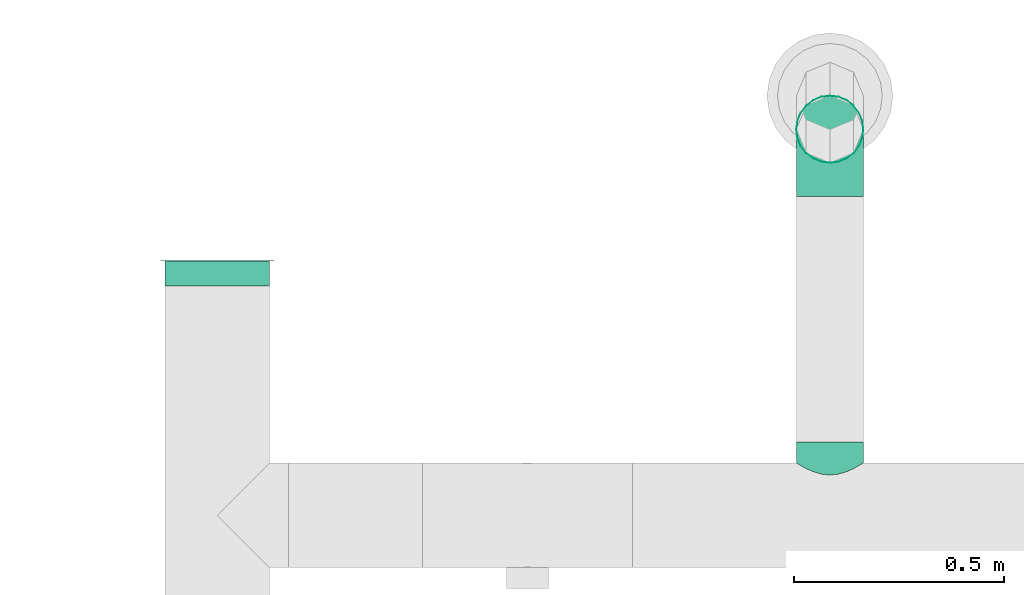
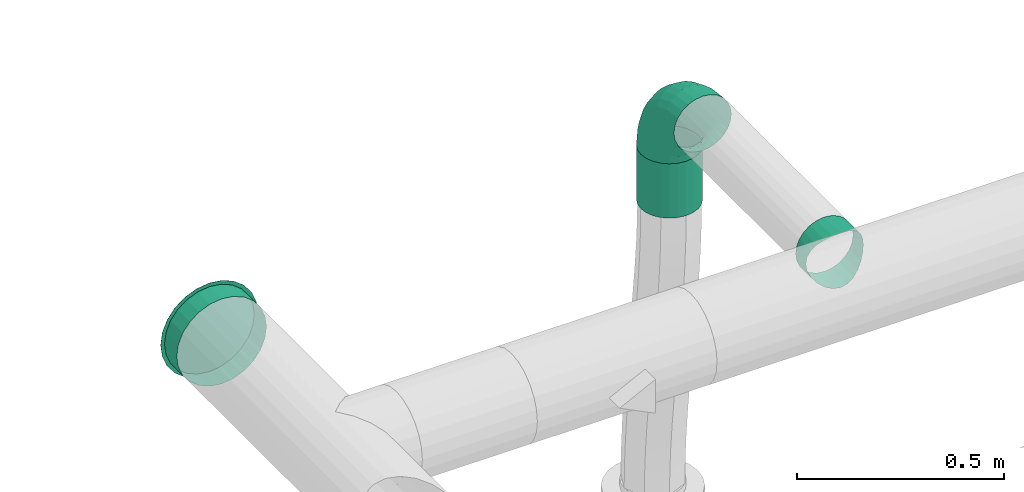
# One storey, part 178 of 374: 2 flow fittings, 2 flow segments.
"""IFC2X3 building model written with IfcOpenShell, lengths in metres."""

from ifc_helpers import new_model, si_unit, direction, origin, place, context, subcontext, project, spatial, open_shell, surface_model, source, transform, mapped, element, save


model = new_model("IFC2X3")

# Units and contexts
model_context = context("Model", 3, precision=1e-05, world=origin(), true_north=direction((-0.4480736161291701, 0.8939966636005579)))
body_context = subcontext(model_context, "Body", "Model", "MODEL_VIEW")
ifc_project = project(units=[si_unit("LENGTHUNIT", "METRE"), si_unit("AREAUNIT", "SQUARE_METRE"), si_unit("VOLUMEUNIT", "CUBIC_METRE"), si_unit("PLANEANGLEUNIT", "RADIAN"), si_unit("THERMODYNAMICTEMPERATUREUNIT", "KELVIN"), si_unit("MASSUNIT", "GRAM", prefix="KILO"), si_unit("TIMEUNIT", "SECOND")], contexts=[model_context])

# Site, building, storey
site_placement = place(None, origin())
site = spatial("IfcSite", under=ifc_project, at=site_placement, Name="Site 1", CompositionType="ELEMENT")
building_placement = place(site_placement, origin())
building = spatial("IfcBuilding", under=site, at=building_placement, Name="Undefined", CompositionType="ELEMENT")
storey_placement = place(building_placement, origin())
storey = spatial("IfcBuildingStorey", under=building, at=storey_placement, Name="Rez de chauss\x8ee", CompositionType="ELEMENT", Elevation=0.0)

# Flow fitting
shared_shape_1 = source(origin(), body_context, "Body", "SurfaceModel", [
    surface_model("IfcFaceBasedSurfaceModel", [(0.06265257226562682, -8.8817842e-16, 0.0), (0.062296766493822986, 0.02088115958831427, -7.105427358e-15), (0.0003558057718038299, 0.020881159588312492, 7.105427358e-15), (0.0, 0.0, 0.0), (-0.059474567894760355, 0.022956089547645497, -0.015896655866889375), (-0.06051773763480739, 0.002098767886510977, -0.01607928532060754), (-0.11311701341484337, 0.02696454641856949, -0.04660663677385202), (-0.11477645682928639, 0.006153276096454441, -0.04714207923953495), (-0.15691588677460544, 0.0326333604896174, -0.09003710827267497), (-0.15907851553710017, 0.01188721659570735, -0.09107150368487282), (-0.18788636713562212, 0.03957621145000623, -0.14322835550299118), (-0.1904048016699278, 0.01890983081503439, -0.14487384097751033), (-0.2039178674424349, 0.04731995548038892, -0.20255548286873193), (-0.20662048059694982, 0.026742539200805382, -0.20488255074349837), (0.061253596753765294, 0.04103889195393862, -0.0053597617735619), (0.0013989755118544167, 0.04103889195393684, -0.005359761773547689), (-0.05641614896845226, 0.04304393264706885, -0.02072097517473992), (-0.10825177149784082, 0.04691737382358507, -0.050396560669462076), (-0.15057538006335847, 0.05239524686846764, -0.09236417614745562), (-0.18050269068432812, 0.05910424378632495, -0.14376379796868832), (-0.19599420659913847, 0.06658715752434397, -0.20109262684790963), (0.05959415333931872, 0.05909948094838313, -0.01571402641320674), (0.003058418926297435, 0.05909948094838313, -0.01571402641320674), (-0.05155090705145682, 0.06099334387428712, -0.030223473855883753), (-0.10051228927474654, 0.06465200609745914, -0.058253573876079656), (-0.1404890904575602, 0.0698261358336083, -0.09789412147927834), (-0.16875695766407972, 0.0761631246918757, -0.14644367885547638), (-0.18338948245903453, 0.08323111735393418, -0.2005936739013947), (0.057431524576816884, 0.07383212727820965, -0.030357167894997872), (0.005221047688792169, 0.07383212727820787, -0.03035716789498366), (-0.0452104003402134, 0.07558110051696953, -0.04375657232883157), (-0.09042599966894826, 0.07895985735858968, -0.06964223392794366), (-0.12734438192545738, 0.08373814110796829, -0.10625008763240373), (-0.15344962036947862, 0.08959031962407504, -0.15108536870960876), (-0.16696268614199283, 0.0961175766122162, -0.20109262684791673), (0.054913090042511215, 0.0842328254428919, -0.048291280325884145), (0.007739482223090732, 0.08423282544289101, -0.04829128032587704), (-0.037826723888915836, 0.08581307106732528, -0.06039801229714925), (-0.07868026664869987, 0.08886587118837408, -0.08378642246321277), (-0.11203704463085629, 0.09318318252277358, -0.11686262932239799), (-0.13562384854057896, 0.09847078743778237, -0.1573725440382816), (-0.14783327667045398, 0.10436834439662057, -0.20255548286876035), (0.05221047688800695, 0.0895927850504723, -0.06829418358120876), (0.010442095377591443, 0.08959278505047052, -0.06829418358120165), (-0.029903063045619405, 0.09099196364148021, -0.07901370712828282), (-0.06607554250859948, 0.09369496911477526, -0.0997222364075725), (-0.0956102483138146, 0.0975175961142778, -0.12900851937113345), (-0.11649443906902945, 0.10219933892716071, -0.16487674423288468), (-0.12730489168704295, 0.1074211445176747, -0.2048825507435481), (0.04950786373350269, 0.08954673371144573, -0.08900271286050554), (0.013144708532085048, 0.08954673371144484, -0.08900271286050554), (-0.02197940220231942, 0.09076484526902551, -0.09833502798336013), (-0.05347081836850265, 0.09311805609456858, -0.11636367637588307), (-0.0791834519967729, 0.09644599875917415, -0.14186003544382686), (-0.09736502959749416, 0.10052187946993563, -0.17308657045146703), (-0.10677650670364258, 0.1050679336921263, -0.20791524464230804), (0.04698942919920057, 0.08409780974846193, -0.10900561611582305), (0.015663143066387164, 0.08409780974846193, -0.10900561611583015), (-0.014595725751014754, 0.08514719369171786, -0.11704525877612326), (-0.0417250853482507, 0.0871744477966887, -0.13257665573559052), (-0.06387611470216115, 0.09004141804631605, -0.15454136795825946), (-0.07953925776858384, 0.09355272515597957, -0.1814425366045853), (-0.08764709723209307, 0.09746907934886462, -0.21144689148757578), (0.04482680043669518, 0.0736173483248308, -0.12693972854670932), (0.017825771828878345, 0.0736173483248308, -0.12693972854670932), (-0.008255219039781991, 0.07452184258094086, -0.13386932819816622), (-0.03163879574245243, 0.0762691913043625, -0.14725628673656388), (-0.050731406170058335, 0.07874031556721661, -0.1661883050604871), (-0.06423192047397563, 0.08176681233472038, -0.18937519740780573), (-0.07122030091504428, 0.08514243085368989, -0.21523681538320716), (0.04316735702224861, 0.058819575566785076, -0.14158287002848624), (0.019485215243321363, 0.058819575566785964, -0.14158287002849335), (-0.0033899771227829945, 0.05961289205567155, -0.14766070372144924), (-0.02389931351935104, 0.06114546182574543, -0.15940217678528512), (-0.04064511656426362, 0.06331284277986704, -0.17600712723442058), (-0.052486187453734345, 0.06596733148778, -0.19634395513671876), (-0.05861557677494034, 0.06892802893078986, -0.2190267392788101), (0.04212418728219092, 0.040712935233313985, -0.15193713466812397), (0.020528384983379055, 0.040712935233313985, -0.15193713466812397), (-0.0003315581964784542, 0.041436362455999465, -0.15747952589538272), (-0.019034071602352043, 0.04283391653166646, -0.16818660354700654), (-0.03430460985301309, 0.04481035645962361, -0.1833286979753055), (-0.04510251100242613, 0.047230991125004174, -0.20187390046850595), (-0.05069191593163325, 0.04993085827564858, -0.22255838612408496), (0.04176838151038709, 0.02053136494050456, -0.15729689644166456), (0.020884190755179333, 0.02053136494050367, -0.15729689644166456), (0.0007116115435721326, 0.021230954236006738, -0.16265665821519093), (-0.017374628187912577, 0.022582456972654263, -0.17301092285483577), (-0.03214198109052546, 0.024493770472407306, -0.1876540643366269), (-0.042584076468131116, 0.026834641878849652, -0.20558817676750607), (-0.04798930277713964, 0.02944554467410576, -0.22559108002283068), (0.04212418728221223, -0.000349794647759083, -0.15729689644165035), (0.020528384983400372, -0.000349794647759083, -0.15729689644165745), (-0.0003315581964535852, 0.00037363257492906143, -0.1628392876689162), (-0.019034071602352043, 0.0017711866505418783, -0.17354636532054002), (-0.03430460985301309, 0.0037476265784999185, -0.18868845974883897), (-0.04510251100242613, 0.00616826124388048, -0.20723366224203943), (-0.05069191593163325, 0.008868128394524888, -0.22791814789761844), (0.04316735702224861, -0.020507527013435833, -0.15193713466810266), (0.019485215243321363, -0.020507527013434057, -0.15193713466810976), (-0.0033899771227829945, -0.019714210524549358, -0.15801496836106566), (-0.02389931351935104, -0.01818164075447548, -0.16975644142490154), (-0.04064511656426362, -0.01601425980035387, -0.186361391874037), (-0.052486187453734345, -0.013359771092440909, -0.20669821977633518), (-0.05861557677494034, -0.010399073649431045, -0.22938100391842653), (0.04482680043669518, -0.03856811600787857, -0.1415828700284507), (0.017825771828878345, -0.03856811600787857, -0.1415828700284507), (-0.008255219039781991, -0.03766362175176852, -0.1485124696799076), (-0.03163879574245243, -0.03591627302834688, -0.16189942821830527), (-0.050731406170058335, -0.03344514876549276, -0.1808314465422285), (-0.06423192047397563, -0.030418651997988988, -0.20401833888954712), (-0.07122030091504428, -0.027043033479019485, -0.22987995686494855), (0.04698942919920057, -0.05330076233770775, -0.12693972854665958), (0.015663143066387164, -0.05330076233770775, -0.12693972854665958), (-0.014595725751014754, -0.05225137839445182, -0.1349793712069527), (-0.0417250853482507, -0.05022412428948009, -0.15051076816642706), (-0.06387611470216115, -0.047357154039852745, -0.172475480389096), (-0.07953925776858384, -0.043845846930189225, -0.19937664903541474), (-0.08764709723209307, -0.03992949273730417, -0.2293810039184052), (0.04950786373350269, -0.06370146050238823, -0.10900561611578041), (0.013144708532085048, -0.06370146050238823, -0.10900561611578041), (-0.02197940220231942, -0.06248334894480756, -0.11833793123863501), (-0.05347081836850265, -0.06013013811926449, -0.13636657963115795), (-0.0791834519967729, -0.05680219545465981, -0.16186293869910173), (-0.09736502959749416, -0.05272631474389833, -0.1930894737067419), (-0.10677650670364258, -0.04818026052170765, -0.2279181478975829), (0.05221047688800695, -0.06906142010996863, -0.08900271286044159), (0.010442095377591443, -0.06906142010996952, -0.08900271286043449), (-0.029903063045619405, -0.06766224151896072, -0.09972223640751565), (-0.06607554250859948, -0.06495923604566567, -0.12043076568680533), (-0.0956102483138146, -0.06113660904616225, -0.14971704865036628), (-0.11649443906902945, -0.05645486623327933, -0.1855852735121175), (-0.12730489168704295, -0.05123306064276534, -0.22559108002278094), (0.054913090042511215, -0.06901536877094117, -0.06829418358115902), (0.007739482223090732, -0.06901536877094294, -0.06829418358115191), (-0.037826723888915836, -0.06743512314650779, -0.08040091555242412), (-0.07868026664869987, -0.06438232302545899, -0.10378932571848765), (-0.11203704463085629, -0.06006501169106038, -0.13686553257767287), (-0.13562384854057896, -0.0547774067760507, -0.17737544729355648), (-0.14783327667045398, -0.04887984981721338, -0.22255838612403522), (0.057431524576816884, -0.06356644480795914, -0.0482912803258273), (0.005221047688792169, -0.06356644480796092, -0.04829128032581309), (-0.0452104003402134, -0.061817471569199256, -0.0616906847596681), (-0.09042599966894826, -0.05843871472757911, -0.0875763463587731), (-0.12734438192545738, -0.05366043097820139, -0.12418420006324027), (-0.15344962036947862, -0.04780825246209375, -0.1690194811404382), (-0.16696268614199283, -0.041280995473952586, -0.21902673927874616), (0.05959415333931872, -0.05308598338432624, -0.030357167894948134), (0.003058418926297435, -0.05308598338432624, -0.030357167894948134), (-0.05155090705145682, -0.05119212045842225, -0.04486661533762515), (-0.10051228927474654, -0.04753345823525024, -0.07289671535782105), (-0.1404890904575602, -0.04235932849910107, -0.11253726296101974), (-0.16875695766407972, -0.03602233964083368, -0.16108682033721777), (-0.18338948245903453, -0.02895434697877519, -0.2152368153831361), (0.061253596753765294, -0.03828821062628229, -0.015714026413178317), (0.0013989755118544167, -0.03828821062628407, -0.015714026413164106), (-0.05641614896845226, -0.03628316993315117, -0.031075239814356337), (-0.10825177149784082, -0.03240972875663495, -0.06075082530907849), (-0.15057538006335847, -0.026931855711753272, -0.10271844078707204), (-0.18050269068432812, -0.02022285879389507, -0.15411806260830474), (-0.19599420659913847, -0.012739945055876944, -0.21144689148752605), (0.062296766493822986, -0.020181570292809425, -0.005359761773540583), (0.0003558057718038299, -0.020181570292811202, -0.0053597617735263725), (-0.059474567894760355, -0.018106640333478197, -0.021256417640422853), (-0.11311701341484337, -0.014098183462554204, -0.051966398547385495), (-0.15691588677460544, -0.00842936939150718, -0.09539687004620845), (-0.18788636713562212, -0.0014865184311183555, -0.14858811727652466), (-0.2039178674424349, 0.006257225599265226, -0.2079152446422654)], [open_shell([[[0, 1, 2, 3]], [[3, 2, 4, 5]], [[5, 4, 6, 7]], [[7, 6, 8, 9]], [[9, 8, 10, 11]], [[11, 10, 12, 13]], [[1, 14, 15, 2]], [[2, 15, 16, 4]], [[4, 16, 17, 6]], [[6, 17, 18, 8]], [[8, 18, 19, 10]], [[10, 19, 20, 12]], [[14, 21, 22, 15]], [[15, 22, 23, 16]], [[16, 23, 24, 17]], [[17, 24, 25, 18]], [[18, 25, 26, 19]], [[19, 26, 27, 20]], [[21, 28, 29, 22]], [[22, 29, 30, 23]], [[23, 30, 31, 24]], [[24, 31, 32, 25]], [[25, 32, 33, 26]], [[26, 33, 34, 27]], [[28, 35, 36, 29]], [[29, 36, 37, 30]], [[30, 37, 38, 31]], [[31, 38, 39, 32]], [[32, 39, 40, 33]], [[33, 40, 41, 34]], [[35, 42, 43, 36]], [[36, 43, 44, 37]], [[37, 44, 45, 38]], [[38, 45, 46, 39]], [[39, 46, 47, 40]], [[40, 47, 48, 41]], [[42, 49, 50, 43]], [[43, 50, 51, 44]], [[44, 51, 52, 45]], [[45, 52, 53, 46]], [[46, 53, 54, 47]], [[47, 54, 55, 48]], [[49, 56, 57, 50]], [[50, 57, 58, 51]], [[51, 58, 59, 52]], [[52, 59, 60, 53]], [[53, 60, 61, 54]], [[54, 61, 62, 55]], [[56, 63, 64, 57]], [[57, 64, 65, 58]], [[58, 65, 66, 59]], [[59, 66, 67, 60]], [[60, 67, 68, 61]], [[61, 68, 69, 62]], [[63, 70, 71, 64]], [[64, 71, 72, 65]], [[65, 72, 73, 66]], [[66, 73, 74, 67]], [[67, 74, 75, 68]], [[68, 75, 76, 69]], [[70, 77, 78, 71]], [[71, 78, 79, 72]], [[72, 79, 80, 73]], [[73, 80, 81, 74]], [[74, 81, 82, 75]], [[75, 82, 83, 76]], [[77, 84, 85, 78]], [[78, 85, 86, 79]], [[79, 86, 87, 80]], [[80, 87, 88, 81]], [[81, 88, 89, 82]], [[82, 89, 90, 83]], [[84, 91, 92, 85]], [[85, 92, 93, 86]], [[86, 93, 94, 87]], [[87, 94, 95, 88]], [[88, 95, 96, 89]], [[89, 96, 97, 90]], [[91, 98, 99, 92]], [[92, 99, 100, 93]], [[93, 100, 101, 94]], [[94, 101, 102, 95]], [[95, 102, 103, 96]], [[96, 103, 104, 97]], [[98, 105, 106, 99]], [[99, 106, 107, 100]], [[100, 107, 108, 101]], [[101, 108, 109, 102]], [[102, 109, 110, 103]], [[103, 110, 111, 104]], [[105, 112, 113, 106]], [[106, 113, 114, 107]], [[107, 114, 115, 108]], [[108, 115, 116, 109]], [[109, 116, 117, 110]], [[110, 117, 118, 111]], [[112, 119, 120, 113]], [[113, 120, 121, 114]], [[114, 121, 122, 115]], [[115, 122, 123, 116]], [[116, 123, 124, 117]], [[117, 124, 125, 118]], [[119, 126, 127, 120]], [[120, 127, 128, 121]], [[121, 128, 129, 122]], [[122, 129, 130, 123]], [[123, 130, 131, 124]], [[124, 131, 132, 125]], [[126, 133, 134, 127]], [[127, 134, 135, 128]], [[128, 135, 136, 129]], [[129, 136, 137, 130]], [[130, 137, 138, 131]], [[131, 138, 139, 132]], [[133, 140, 141, 134]], [[134, 141, 142, 135]], [[135, 142, 143, 136]], [[136, 143, 144, 137]], [[137, 144, 145, 138]], [[138, 145, 146, 139]], [[140, 147, 148, 141]], [[141, 148, 149, 142]], [[142, 149, 150, 143]], [[143, 150, 151, 144]], [[144, 151, 152, 145]], [[145, 152, 153, 146]], [[147, 154, 155, 148]], [[148, 155, 156, 149]], [[149, 156, 157, 150]], [[150, 157, 158, 151]], [[151, 158, 159, 152]], [[152, 159, 160, 153]], [[154, 161, 162, 155]], [[155, 162, 163, 156]], [[156, 163, 164, 157]], [[157, 164, 165, 158]], [[158, 165, 166, 159]], [[159, 166, 167, 160]], [[161, 0, 3, 162]], [[162, 3, 5, 163]], [[163, 5, 7, 164]], [[164, 7, 9, 165]], [[165, 9, 11, 166]], [[166, 11, 13, 167]]])]),
])
flow_fitting_1_placement = place(storey_placement, origin())
element("IfcFlowFitting", 1, at=flow_fitting_1_placement, inside=storey, Name="Coude", ObjectType="Coude", context=body_context, shape_type="MappedRepresentation", body=[
    mapped(shared_shape_1, transform((53.396610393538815, 23.650708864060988, 3.7021165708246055), x_axis=(0.0, 0.13052619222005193, -0.9914448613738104), y_axis=(-0.9915887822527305, -0.12832103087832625, -0.016893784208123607), z_axis=(-0.12942830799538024, 0.9831056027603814, 0.12942830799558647))),
])

# Flow segments
shared_shape_2 = source(origin(), body_context, "Body", "SurfaceModel", [
    surface_model("IfcFaceBasedSurfaceModel", [(0.0, 0.020884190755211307, 0.0), (0.0, 0.0, 0.0), (0.16000000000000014, 0.0, -4.4408921e-16), (0.16000000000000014, 0.0208841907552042, -4.4408921e-16), (0.0, -0.020172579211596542, -0.005405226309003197), (0.16000000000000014, -0.020172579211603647, -0.005405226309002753), (0.0, -0.03825881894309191, -0.015847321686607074), (0.16000000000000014, -0.03825881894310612, -0.015847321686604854), (0.0, -0.05302617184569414, -0.0306146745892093), (0.16000000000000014, -0.05302617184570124, -0.03061467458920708), (0.0, -0.06346826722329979, -0.04870091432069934), (0.16000000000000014, -0.0634682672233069, -0.04870091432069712), (0.0, -0.06887349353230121, -0.06887349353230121), (0.16000000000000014, -0.06887349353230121, -0.06887349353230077), (0.0, -0.06887349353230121, -0.08975768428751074), (0.16000000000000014, -0.06887349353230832, -0.08975768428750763), (0.0, -0.06346826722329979, -0.10993026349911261), (0.16000000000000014, -0.0634682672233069, -0.10993026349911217), (0.0, -0.05302617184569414, -0.12801650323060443), (0.16000000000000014, -0.05302617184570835, -0.1280165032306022), (0.0, -0.038258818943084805, -0.14278385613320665), (0.16000000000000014, -0.03825881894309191, -0.14278385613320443), (0.0, -0.020172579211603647, -0.15322595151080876), (0.16000000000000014, -0.020172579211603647, -0.1532259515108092), (0.0, 7.105427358e-15, -0.15863117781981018), (0.16000000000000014, -7.105427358e-15, -0.15863117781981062), (0.0, 0.020884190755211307, -0.15863117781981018), (0.16000000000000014, 0.0208841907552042, -0.15863117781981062), (0.0, 0.04105676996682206, -0.15322595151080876), (0.16000000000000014, 0.04105676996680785, -0.1532259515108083), (0.0, 0.05914300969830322, -0.1427838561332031), (0.16000000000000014, 0.05914300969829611, -0.14278385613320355), (0.0, 0.07391036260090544, -0.12801650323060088), (0.16000000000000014, 0.07391036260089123, -0.1280165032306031), (0.0, 0.0843524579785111, -0.10993026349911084), (0.16000000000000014, 0.08435245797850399, -0.10993026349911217), (0.0, 0.08975768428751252, -0.08975768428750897), (0.16000000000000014, 0.08975768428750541, -0.08975768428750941), (0.0, 0.08975768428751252, -0.06887349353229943), (0.16000000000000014, 0.08975768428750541, -0.06887349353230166), (0.0, 0.0843524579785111, -0.048700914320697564), (0.16000000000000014, 0.08435245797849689, -0.04870091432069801), (0.0, 0.07391036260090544, -0.030614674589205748), (0.16000000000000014, 0.07391036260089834, -0.03061467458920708), (0.0, 0.05914300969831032, -0.015847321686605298), (0.16000000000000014, 0.05914300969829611, -0.01584732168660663), (0.0, 0.04105676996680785, -0.005405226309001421), (0.16000000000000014, 0.04105676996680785, -0.005405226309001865)], [open_shell([[[0, 1, 2, 3]], [[1, 4, 5, 2]], [[4, 6, 7, 5]], [[6, 8, 9, 7]], [[8, 10, 11, 9]], [[10, 12, 13, 11]], [[12, 14, 15, 13]], [[14, 16, 17, 15]], [[16, 18, 19, 17]], [[18, 20, 21, 19]], [[20, 22, 23, 21]], [[22, 24, 25, 23]], [[24, 26, 27, 25]], [[26, 28, 29, 27]], [[28, 30, 31, 29]], [[30, 32, 33, 31]], [[32, 34, 35, 33]], [[34, 36, 37, 35]], [[36, 38, 39, 37]], [[38, 40, 41, 39]], [[40, 42, 43, 41]], [[42, 44, 45, 43]], [[44, 46, 47, 45]], [[46, 0, 3, 47]]])]),
])
flow_segment_1_placement = place(storey_placement, origin())
element("IfcFlowSegment", 2, at=flow_segment_1_placement, inside=storey, Name="Tube", ObjectType="Tube", context=body_context, shape_type="MappedRepresentation", body=[
    mapped(shared_shape_2, transform((53.41731591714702, 23.501612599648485, 3.4800000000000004), x_axis=(0.0, 0.0, 1.0), y_axis=(-0.9914448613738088, -0.13052619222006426, 0.0), z_axis=(0.13052619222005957, -0.9914448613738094, 0.0))),
])
shared_shape_3 = source(origin(), body_context, "Body", "SurfaceModel", [
    surface_model("IfcFaceBasedSurfaceModel", [(0.001726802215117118, 0.020884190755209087, 0.0), (0.0, 0.0, 0.0), (0.051726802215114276, 8.8817842e-16, 0.0), (0.051726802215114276, 0.020884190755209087, 0.0), (-0.0048460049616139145, -0.02017257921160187, -0.005405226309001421), (0.051726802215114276, -0.02017257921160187, -0.005405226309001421), (-0.011805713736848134, -0.0382588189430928, -0.015847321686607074), (0.051726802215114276, -0.0382588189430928, -0.015847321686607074), (-0.019229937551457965, -0.05302617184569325, -0.0306146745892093), (0.051726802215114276, -0.05302617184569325, -0.0306146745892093), (-0.025019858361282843, -0.06346826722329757, -0.04870091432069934), (0.051726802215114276, -0.06346826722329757, -0.04870091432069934), (-0.027226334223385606, -0.06887349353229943, -0.06887349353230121), (0.051726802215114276, -0.06887349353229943, -0.06887349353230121), (-0.025019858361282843, -0.06887349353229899, -0.08975768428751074), (0.051726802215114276, -0.06887349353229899, -0.08975768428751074), (-0.019229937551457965, -0.06346826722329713, -0.10993026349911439), (0.051726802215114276, -0.06346826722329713, -0.10993026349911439), (-0.011805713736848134, -0.05302617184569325, -0.12801650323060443), (0.051726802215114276, -0.05302617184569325, -0.12801650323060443), (-0.0048460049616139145, -0.038258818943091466, -0.14278385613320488), (0.051726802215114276, -0.038258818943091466, -0.14278385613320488), (0.0, -0.020172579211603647, -0.15322595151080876), (0.051726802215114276, -0.020172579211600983, -0.15322595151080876), (0.001726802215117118, 2.220446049e-15, -0.15863117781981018), (0.051726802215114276, 2.220446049e-15, -0.15863117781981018), (0.0, 0.020884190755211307, -0.15863117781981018), (0.051726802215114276, 0.020884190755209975, -0.15863117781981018), (-0.0048460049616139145, 0.04105676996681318, -0.15322595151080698), (0.051726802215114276, 0.04105676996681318, -0.15322595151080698), (-0.011805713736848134, 0.05914300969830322, -0.1427838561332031), (0.051726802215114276, 0.05914300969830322, -0.1427838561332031), (-0.019229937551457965, 0.07391036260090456, -0.12801650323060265), (0.051726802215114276, 0.07391036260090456, -0.12801650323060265), (-0.025019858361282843, 0.08435245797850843, -0.10993026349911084), (0.051726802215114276, 0.08435245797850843, -0.10993026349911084), (-0.027226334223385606, 0.08975768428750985, -0.08975768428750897), (0.051726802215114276, 0.08975768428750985, -0.08975768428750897), (-0.025019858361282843, 0.08975768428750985, -0.06887349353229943), (0.051726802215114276, 0.08975768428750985, -0.06887349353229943), (-0.019229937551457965, 0.08435245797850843, -0.048700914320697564), (0.051726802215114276, 0.08435245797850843, -0.048700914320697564), (-0.011805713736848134, 0.07391036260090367, -0.030614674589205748), (0.051726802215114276, 0.07391036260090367, -0.030614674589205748), (-0.0048460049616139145, 0.05914300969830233, -0.01584732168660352), (0.051726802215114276, 0.05914300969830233, -0.01584732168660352), (0.0, 0.04105676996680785, -0.005405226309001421), (0.051726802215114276, 0.04105676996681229, -0.005405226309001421)], [open_shell([[[0, 1, 2, 3]], [[1, 4, 5, 2]], [[4, 6, 7, 5]], [[6, 8, 9, 7]], [[8, 10, 11, 9]], [[10, 12, 13, 11]], [[12, 14, 15, 13]], [[14, 16, 17, 15]], [[16, 18, 19, 17]], [[18, 20, 21, 19]], [[20, 22, 23, 21]], [[22, 24, 25, 23]], [[24, 26, 27, 25]], [[26, 28, 29, 27]], [[28, 30, 31, 29]], [[30, 32, 33, 31]], [[32, 34, 35, 33]], [[34, 36, 37, 35]], [[36, 38, 39, 37]], [[38, 40, 41, 39]], [[40, 42, 43, 41]], [[42, 44, 45, 43]], [[44, 46, 47, 45]], [[46, 0, 3, 47]]])]),
])
flow_segment_2_placement = place(storey_placement, origin())
element("IfcFlowSegment", 3, at=flow_segment_2_placement, inside=storey, Name="Piquage équerre circulaire", ObjectType="Piquage équerre circulaire", context=body_context, shape_type="MappedRepresentation", body=[
    mapped(shared_shape_3, transform((53.473884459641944, 22.781148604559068, 3.779294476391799), x_axis=(0.0, 1.0, 0.0), y_axis=(0.1305261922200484, 0.0, 0.9914448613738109), z_axis=(0.9914448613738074, 0.0, -0.13052619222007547))),
])

# Flow fitting
shared_shape_4 = source(origin(), body_context, "Body", "SurfaceModel", [
    surface_model("IfcFaceBasedSurfaceModel", [(0.0, 0.03263154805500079, 0.0), (0.0, 0.0, 0.0), (0.05940000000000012, 7.105427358e-15, 4.4408921e-16), (0.05940000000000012, 0.03263154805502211, 4.4408921e-16), (0.0, -0.031519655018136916, -0.008445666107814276), (0.05940000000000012, -0.03151965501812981, -0.008445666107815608), (0.0, -0.05977940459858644, -0.024761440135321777), (0.05940000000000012, -0.05977940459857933, -0.024761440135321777), (0.0, -0.08285339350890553, -0.047835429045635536), (0.05940000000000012, -0.08285339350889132, -0.04783542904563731), (0.0, -0.09916916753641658, -0.07609517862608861), (0.05940000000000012, -0.09916916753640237, -0.07609517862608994), (0.0, -0.1076148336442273, -0.10761483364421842), (0.05940000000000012, -0.10761483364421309, -0.1076148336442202), (0.0, -0.1076148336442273, -0.14024638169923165), (0.05940000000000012, -0.10761483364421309, -0.14024638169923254), (0.0, -0.09916916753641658, -0.17176603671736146), (0.05940000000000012, -0.09916916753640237, -0.17176603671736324), (0.0, -0.08285339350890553, -0.2000257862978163), (0.05940000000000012, -0.08285339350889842, -0.20002578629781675), (0.0, -0.059779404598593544, -0.22309977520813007), (0.05940000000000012, -0.05977940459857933, -0.22309977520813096), (0.0, -0.03151965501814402, -0.23941554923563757), (0.05940000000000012, -0.031519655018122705, -0.23941554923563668), (0.0, -1.4210854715e-14, -0.24786121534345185), (0.05940000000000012, 7.105427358e-15, -0.2478612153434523), (0.0, 0.03263154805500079, -0.24786121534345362), (0.05940000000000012, 0.032631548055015, -0.24786121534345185), (0.0, 0.0641512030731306, -0.23941554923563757), (0.05940000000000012, 0.06415120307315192, -0.23941554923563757), (0.0, 0.09241095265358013, -0.22309977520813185), (0.05940000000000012, 0.09241095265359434, -0.2230997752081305), (0.0, 0.11548494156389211, -0.2000257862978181), (0.05940000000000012, 0.11548494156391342, -0.20002578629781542), (0.0, 0.13180071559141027, -0.171766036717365), (0.05940000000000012, 0.13180071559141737, -0.17176603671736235), (0.0, 0.140246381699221, -0.1402463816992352), (0.05940000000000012, 0.1402463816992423, -0.14024638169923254), (0.0, 0.140246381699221, -0.10761483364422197), (0.05940000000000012, 0.1402463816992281, -0.10761483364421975), (0.0, 0.13180071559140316, -0.07609517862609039), (0.05940000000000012, 0.13180071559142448, -0.0760951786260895), (0.0, 0.11548494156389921, -0.04783542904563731), (0.05940000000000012, 0.11548494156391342, -0.047835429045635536), (0.0, 0.09241095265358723, -0.024761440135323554), (0.05940000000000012, 0.09241095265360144, -0.02476144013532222), (0.0, 0.06415120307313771, -0.008445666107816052), (0.05940000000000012, 0.06415120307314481, -0.00844566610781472), (0.05940000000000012, 0.034002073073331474, 0.010410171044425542), (0.05940000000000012, -0.0013705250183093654, 0.010410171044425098), (0.060000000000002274, -0.0013705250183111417, 0.01041017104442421), (0.0600000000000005, 0.034002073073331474, 0.010410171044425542), (0.05940000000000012, -0.03553783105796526, 0.0012550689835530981), (0.0600000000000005, -0.03553783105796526, 0.0012550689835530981), (0.05940000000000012, -0.06617139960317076, -0.01643123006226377), (0.0600000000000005, -0.06617139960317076, -0.01643123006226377), (0.05940000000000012, -0.09118360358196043, -0.041443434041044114), (0.0600000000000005, -0.09118360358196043, -0.041443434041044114), (0.05940000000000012, -0.10886990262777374, -0.07207700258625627), (0.0600000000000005, -0.10886990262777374, -0.07207700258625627), (0.05940000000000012, -0.11802500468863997, -0.10624430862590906), (0.0600000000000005, -0.11802500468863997, -0.10624430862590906), (0.05940000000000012, -0.11802500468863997, -0.14161690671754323), (0.0600000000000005, -0.11802500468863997, -0.14161690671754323), (0.05940000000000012, -0.10886990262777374, -0.17578421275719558), (0.0600000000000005, -0.10886990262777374, -0.17578421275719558), (0.05940000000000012, -0.09118360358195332, -0.20641778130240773), (0.0600000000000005, -0.09118360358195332, -0.20641778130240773), (0.05940000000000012, -0.06617139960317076, -0.23142998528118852), (0.0600000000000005, -0.06617139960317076, -0.23142998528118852), (0.05940000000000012, -0.03553783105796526, -0.24911628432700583), (0.0600000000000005, -0.03553783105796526, -0.24911628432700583), (0.05940000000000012, -0.00137052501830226, -0.25827138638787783), (0.0600000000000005, -0.00137052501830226, -0.25827138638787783), (0.05940000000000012, 0.03400207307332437, -0.2582713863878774), (0.0600000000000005, 0.03400207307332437, -0.2582713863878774), (0.05940000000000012, 0.06816937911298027, -0.2491162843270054), (0.0600000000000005, 0.06816937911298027, -0.2491162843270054), (0.05940000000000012, 0.09880294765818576, -0.23142998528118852), (0.0600000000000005, 0.09880294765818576, -0.23142998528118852), (0.05940000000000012, 0.12381515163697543, -0.20641778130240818), (0.0600000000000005, 0.12381515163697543, -0.20641778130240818), (0.05940000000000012, 0.14150145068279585, -0.17578421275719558), (0.0600000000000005, 0.14150145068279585, -0.17578421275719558), (0.05940000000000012, 0.15065655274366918, -0.1416169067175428), (0.0600000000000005, 0.15065655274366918, -0.1416169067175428), (0.05940000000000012, 0.15065655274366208, -0.10624430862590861), (0.0600000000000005, 0.15065655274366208, -0.10624430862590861), (0.05940000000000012, 0.14150145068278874, -0.07207700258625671), (0.0600000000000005, 0.14150145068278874, -0.07207700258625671), (0.05940000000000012, 0.12381515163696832, -0.04144343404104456), (0.0600000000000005, 0.12381515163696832, -0.04144343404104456), (0.05940000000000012, 0.09880294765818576, -0.01643123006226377), (0.0600000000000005, 0.09880294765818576, -0.01643123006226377), (0.05940000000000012, 0.06816937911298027, 0.0012550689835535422), (0.0600000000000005, 0.06816937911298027, 0.0012550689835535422), (0.05940000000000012, 0.01631577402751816, -0.12393060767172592), (0.0600000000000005, 0.01631577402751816, -0.12393060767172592)], [open_shell([[[0, 1, 2, 3]], [[1, 4, 5, 2]], [[4, 6, 7, 5]], [[6, 8, 9, 7]], [[8, 10, 11, 9]], [[10, 12, 13, 11]], [[12, 14, 15, 13]], [[14, 16, 17, 15]], [[16, 18, 19, 17]], [[18, 20, 21, 19]], [[20, 22, 23, 21]], [[22, 24, 25, 23]], [[24, 26, 27, 25]], [[26, 28, 29, 27]], [[28, 30, 31, 29]], [[30, 32, 33, 31]], [[32, 34, 35, 33]], [[34, 36, 37, 35]], [[36, 38, 39, 37]], [[38, 40, 41, 39]], [[40, 42, 43, 41]], [[42, 44, 45, 43]], [[44, 46, 47, 45]], [[46, 0, 3, 47]], [[48, 49, 50, 51]], [[49, 52, 53, 50]], [[52, 54, 55, 53]], [[54, 56, 57, 55]], [[56, 58, 59, 57]], [[58, 60, 61, 59]], [[60, 62, 63, 61]], [[62, 64, 65, 63]], [[64, 66, 67, 65]], [[66, 68, 69, 67]], [[68, 70, 71, 69]], [[70, 72, 73, 71]], [[72, 74, 75, 73]], [[74, 76, 77, 75]], [[76, 78, 79, 77]], [[78, 80, 81, 79]], [[80, 82, 83, 81]], [[82, 84, 85, 83]], [[84, 86, 87, 85]], [[86, 88, 89, 87]], [[88, 90, 91, 89]], [[90, 92, 93, 91]], [[92, 94, 95, 93]], [[94, 48, 51, 95]], [[96, 49, 48]], [[96, 52, 49]], [[96, 54, 52]], [[96, 56, 54]], [[96, 58, 56]], [[96, 60, 58]], [[96, 62, 60]], [[96, 64, 62]], [[96, 66, 64]], [[96, 68, 66]], [[96, 70, 68]], [[96, 72, 70]], [[96, 74, 72]], [[96, 76, 74]], [[96, 78, 76]], [[96, 80, 78]], [[96, 82, 80]], [[96, 84, 82]], [[96, 86, 84]], [[96, 88, 86]], [[96, 90, 88]], [[96, 92, 90]], [[96, 94, 92]], [[96, 48, 94]], [[97, 95, 51]], [[97, 93, 95]], [[97, 91, 93]], [[97, 89, 91]], [[97, 87, 89]], [[97, 85, 87]], [[97, 83, 85]], [[97, 81, 83]], [[97, 79, 81]], [[97, 77, 79]], [[97, 75, 77]], [[97, 73, 75]], [[97, 71, 73]], [[97, 69, 71]], [[97, 67, 69]], [[97, 65, 67]], [[97, 63, 65]], [[97, 61, 63]], [[97, 59, 61]], [[97, 57, 59]], [[97, 55, 57]], [[97, 53, 55]], [[97, 50, 53]], [[97, 51, 50]]])]),
])
flow_fitting_2_placement = place(storey_placement, origin())
element("IfcFlowFitting", 4, at=flow_fitting_2_placement, inside=storey, Name="Enddeckel", ObjectType="Enddeckel", context=body_context, shape_type="MappedRepresentation", body=[
    mapped(shared_shape_4, transform((51.96734745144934, 23.20548597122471, 3.920740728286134), x_axis=(0.0, 1.0, 0.0), y_axis=(-0.9914448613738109, 0.0, 0.1305261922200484), z_axis=(0.1305261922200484, 0.0, 0.9914448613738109))),
])

save(model, "model.ifc")
